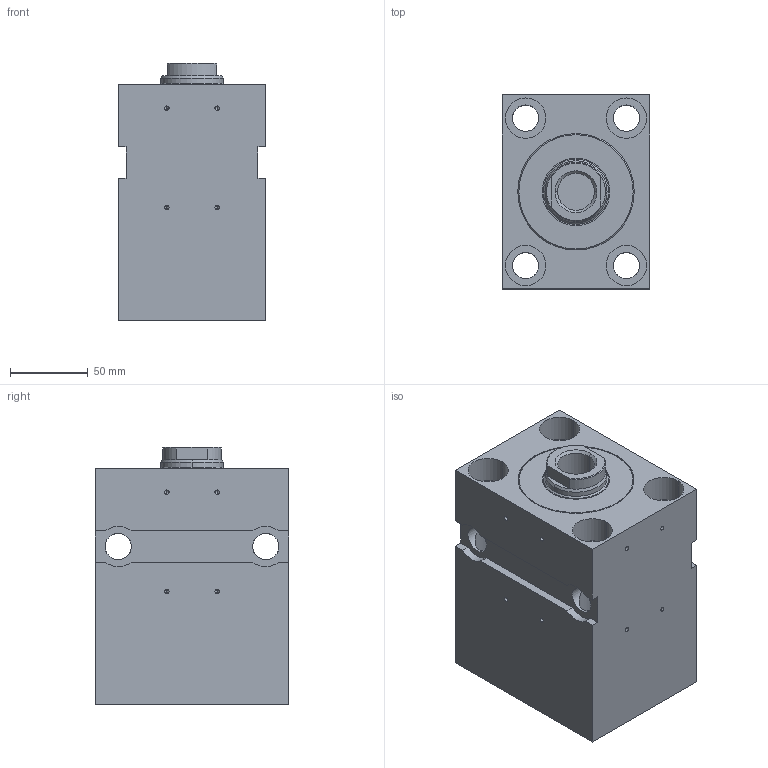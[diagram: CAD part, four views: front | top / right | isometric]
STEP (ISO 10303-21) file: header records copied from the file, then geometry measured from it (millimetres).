
FILE_DESCRIPTION (( 'STEP AP203' ), '1' );
FILE_NAME ('BZ_500.63_40.78.201.080 PP.KBC50__DH_0_.STEP', '2022-05-31T09:43:27', ( '' ), ( '' ), 'SwSTEP 2.0', 'SolidWorks 2020', '' );
FILE_SCHEMA (( 'CONFIG_CONTROL_DESIGN' ));
Length unit declared in the file: millimetre
Products named in the file (6): _Kolbenstange komplett f. BZ_RZ_FZ.63_40.xx.201.80(0_11 1 27 3 0 0 14 40 0 0 0)0^BZ_500.63_40.78.201.080 PP.KBC50__DH_0_(2)_BZ_500.63_40.78.201.080 PP.KBC50__DH_0_; _Verschraubung komplett mit Dichtung f. BZ_RZ_FZ.63_40.201, Art.-Nr._ 042987(201)^BZ_500.63_40.78.201.080 PP.KBC50__DH_0_(2)_BZ_500.63_40.78.201.080 PP.KBC50__DH_0_; _Gehaeuse f. BZ500.63_40.Fehler in IDBF.201.80Fehler in IDNT00(1350frei278000))10^BZ_500.63_40.78.201.080 PP.KBC50__DH_0_(2)_BZ_500.63_40.78.201.080 PP.KBC50__DH_0_; BZ_500.63_40.78.201.080 PP.KBC50__DH_0_(2)^BZ_500.63_40.78.201.080 PP.KBC50__DH_0_; BZ_500.63_40.78.201.080 PP.KBC50__DH_0_; _Dichtungssatz f. BZ_RZ_FZ.63_40.xx.201.80 Artikelnr._ 013832(0)^BZ_500.63_40.78.201.080 PP.KBC50__DH_0_(2)_BZ_500.63_40.78.201.080 PP.KBC50__DH_0_
Assembly tree (5 placements, depth 3):
  BZ_500.63_40.78.201.080 PP.KBC50__DH_0_
    BZ_500.63_40.78.201.080 PP.KBC50__DH_0_(2)^BZ_500.63_40.78.201.080 PP.KBC50__DH_0_
      _Gehaeuse f. BZ500.63_40.Fehler in IDBF.201.80Fehler in IDNT00(1350frei278000))10^BZ_500.63_40.78.201.080 PP.KBC50__DH_0_(2)_BZ_500.63_40.78.201.080 PP.KBC50__DH_0_
      _Verschraubung komplett mit Dichtung f. BZ_RZ_FZ.63_40.201, Art.-Nr._ 042987(201)^BZ_500.63_40.78.201.080 PP.KBC50__DH_0_(2)_BZ_500.63_40.78.201.080 PP.KBC50__DH_0_
      _Dichtungssatz f. BZ_RZ_FZ.63_40.xx.201.80 Artikelnr._ 013832(0)^BZ_500.63_40.78.201.080 PP.KBC50__DH_0_(2)_BZ_500.63_40.78.201.080 PP.KBC50__DH_0_
      _Kolbenstange komplett f. BZ_RZ_FZ.63_40.xx.201.80(0_11 1 27 3 0 0 14 40 0 0 0)0^BZ_500.63_40.78.201.080 PP.KBC50__DH_0_(2)_BZ_500.63_40.78.201.080 PP.KBC50__DH_0_
Bounding box: 95 x 125 x 166 mm (x, y, z)
Volume: 1407965.5 mm3; surface area: 215670.4 mm2
Topology: 4 solids, 4 shells, 207 faces, 501 edges, 300 vertices
Faces by surface type: cylinder 118, plane 51, cone 38
Entity records: 6876 total; most frequent: CARTESIAN_POINT 1414, DIRECTION 1085, ORIENTED_EDGE 954, EDGE_CURVE 477, AXIS2_PLACEMENT_3D 432, VERTEX_POINT 300, EDGE_LOOP 257, VECTOR 221
